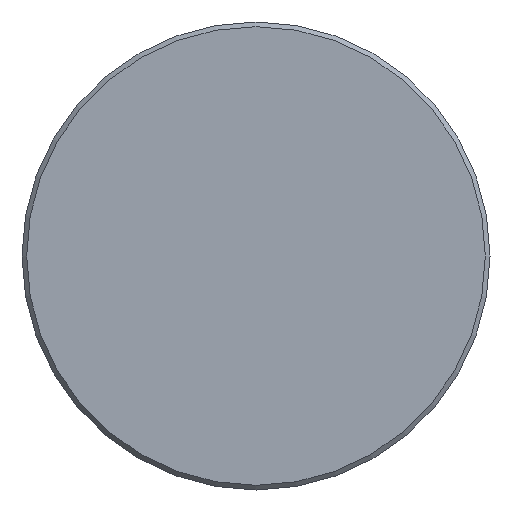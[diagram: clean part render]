
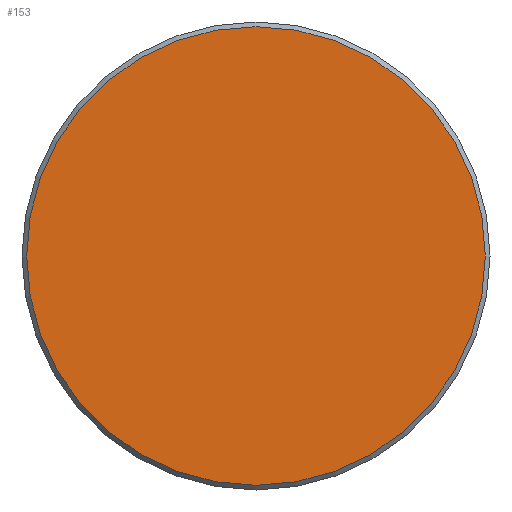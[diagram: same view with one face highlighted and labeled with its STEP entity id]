
A CAD part, front view. The second image highlights one B-rep face of the part: STEP entity #153.
In plain terms, the highlighted planar face has unit normal (0, -1, 0).
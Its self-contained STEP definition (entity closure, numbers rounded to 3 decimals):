
#153 = ADVANCED_FACE( '', ( #314 ), #315, .F. );
#314 = FACE_OUTER_BOUND( '', #514, .T. );
#315 = PLANE( '', #515 );
#514 = EDGE_LOOP( '', ( #730 ) );
#515 = AXIS2_PLACEMENT_3D( '', #731, #732, #733 );
#730 = ORIENTED_EDGE( '', *, *, #1138, .T. );
#731 = CARTESIAN_POINT( '', ( 24.5, 0., 0. ) );
#732 = DIRECTION( '', ( 0., 1., 0. ) );
#733 = DIRECTION( '', ( 0., 0., 1. ) );
#1138 = EDGE_CURVE( '', #1316, #1316, #1317, .T. );
#1316 = VERTEX_POINT( '', #1587 );
#1317 = CIRCLE( '', #1588, 24.5 );
#1587 = CARTESIAN_POINT( '', ( 0., 0., -24.5 ) );
#1588 = AXIS2_PLACEMENT_3D( '', #2028, #2029, #2030 );
#2028 = CARTESIAN_POINT( '', ( 0., 0., 0. ) );
#2029 = DIRECTION( '', ( 0., -1., 0. ) );
#2030 = DIRECTION( '', ( 0., 0., -1. ) );
